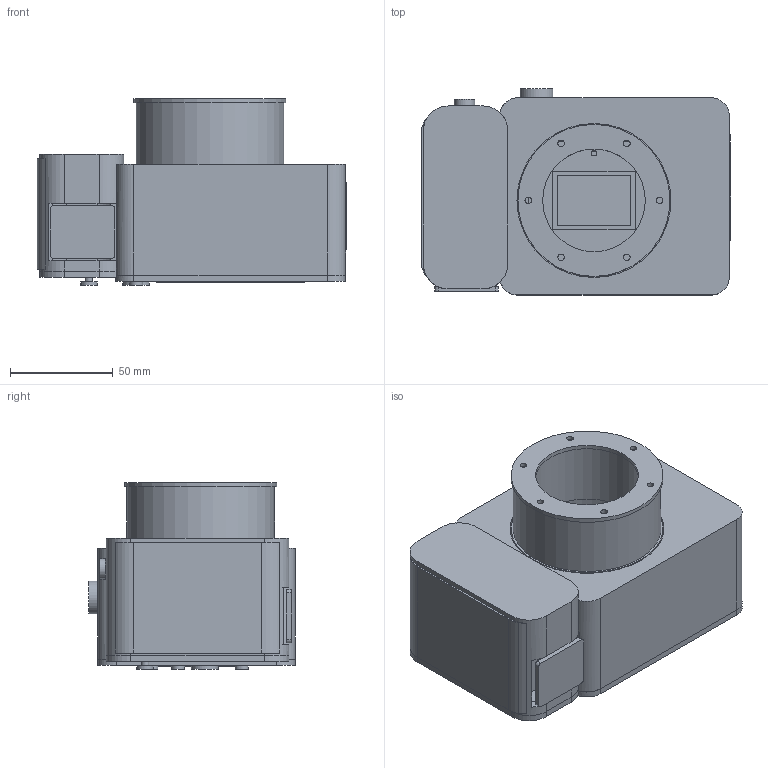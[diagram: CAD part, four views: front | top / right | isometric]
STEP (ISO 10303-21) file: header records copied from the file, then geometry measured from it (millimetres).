
FILE_DESCRIPTION(('Open CASCADE Model'),'2;1');
FILE_NAME('Open CASCADE Shape Model','2026-11-05T01:47:43',('Author'),( 'Open CASCADE'),'Open CASCADE STEP processor 7.8','Open CASCADE 7.8' ,'Unknown');
FILE_SCHEMA(('AUTOMOTIVE_DESIGN { 1 0 10303 214 1 1 1 1 }'));
Length unit declared in the file: millimetre
Products named in the file (28): HassleFree_FF1_EF_concept; 01_front_shell; 02_grip_wrap; 03_rear_shell; 04_load_bearing_chassis; 27_removable_sensor_bridge; 28_removable_control_mount_rails; 29_control_board_mount_spacers; 05_humi_common_interface; 08_ef_mount_cartridge_body; 09_ef_mount_reference_flange; 10_independent_sensor_carrier; 11_sensor_package_placeholder; 12_sensor_active_36x24; 13_three_point_sensor_spacers; 14_heat_spreader_placeholder; 15_main_processing_board_envelope; 16_control_board_provisional_envelope; 26_control_board_component_envelopes; 17_replaceable_battery_envelope; 18_battery_service_door; 19_removable_storage_envelope; 20_storage_service_door; 21_display_module_envelope; 22_rear_buttons; 23_shutter_button; 24_top_control_dial; 25_sensor_datum_mark
Assembly tree (27 placements, depth 2):
  HassleFree_FF1_EF_concept
    01_front_shell
    02_grip_wrap
    03_rear_shell
    04_load_bearing_chassis
    27_removable_sensor_bridge
    28_removable_control_mount_rails
    29_control_board_mount_spacers
    05_humi_common_interface
    08_ef_mount_cartridge_body
    09_ef_mount_reference_flange
    10_independent_sensor_carrier
    11_sensor_package_placeholder
    12_sensor_active_36x24
    13_three_point_sensor_spacers
    14_heat_spreader_placeholder
    15_main_processing_board_envelope
    16_control_board_provisional_envelope
    26_control_board_component_envelopes
    17_replaceable_battery_envelope
    18_battery_service_door
    19_removable_storage_envelope
    20_storage_service_door
    21_display_module_envelope
    22_rear_buttons
    23_shutter_button
    24_top_control_dial
    25_sensor_datum_mark
Bounding box: 150.7 x 100.4 x 91 mm (x, y, z)
Volume: 377352.4 mm3; surface area: 245542.6 mm2
Topology: 39 solids, 39 shells, 519 faces, 1285 edges, 856 vertices
Faces by surface type: plane 324, cylinder 195
Full cylindrical faces by diameter (mm): 1 x14, 2.6 x9, 2.7 x28, 3 x3, 3.2 x24, 3.4 x1, 3.6 x4, 4 x1, 4.2 x1, 5 x2, 5.4 x4, 5.6 x2, 6 x3, 6.4 x3, 8 x1, 10 x1, 13 x1, 16 x1, 50 x2, 57 x2, 72 x1, 74 x2, 75 x1
Entity records: 33848 total; most frequent: CARTESIAN_POINT 6362, DIRECTION 5185, LINE 3015, VECTOR 3015, ORIENTED_EDGE 2570, PCURVE 2570, DEFINITIONAL_REPRESENTATION 2570, EDGE_CURVE 1285
